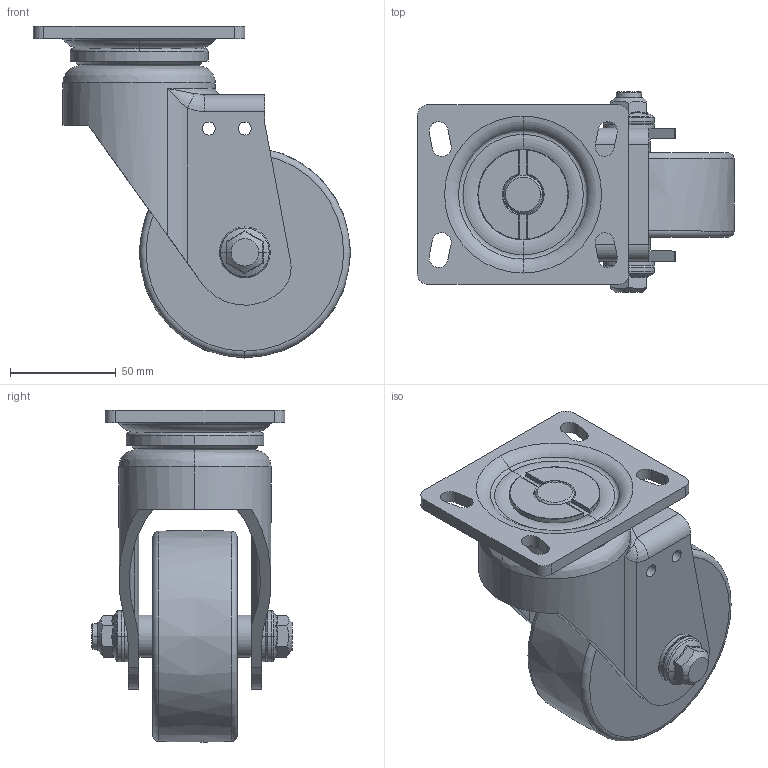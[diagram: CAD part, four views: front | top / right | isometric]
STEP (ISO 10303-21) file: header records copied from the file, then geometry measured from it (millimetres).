
FILE_DESCRIPTION((''),'2;1');
FILE_NAME('PH-100-ASF-SUD.stp','2013-04-30T12:01:56',(''),(''),'Mechanical Desktop 2009','Mechanical Desktop 2009',', , ');
FILE_SCHEMA(('CONFIG_CONTROL_DESIGN'));
Length unit declared in the file: millimetre
Products named in the file (2): PH-100-ASF-SUD; PLATE
Assembly tree (1 placements, depth 2):
  PH-100-ASF-SUD
    PLATE
Bounding box: 150 x 94.8 x 156.97 mm (x, y, z)
Volume: 507191.2 mm3; surface area: 114212 mm2
Topology: 7 solids, 7 shells, 329 faces, 827 edges, 524 vertices
Faces by surface type: cylinder 87, bspline 74, plane 73, torus 63, cone 32
Entity records: 13590 total; most frequent: CARTESIAN_POINT 5585, DIRECTION 1755, ORIENTED_EDGE 1648, EDGE_CURVE 824, AXIS2_PLACEMENT_3D 773, VERTEX_POINT 524, CIRCLE 509, EDGE_LOOP 374
